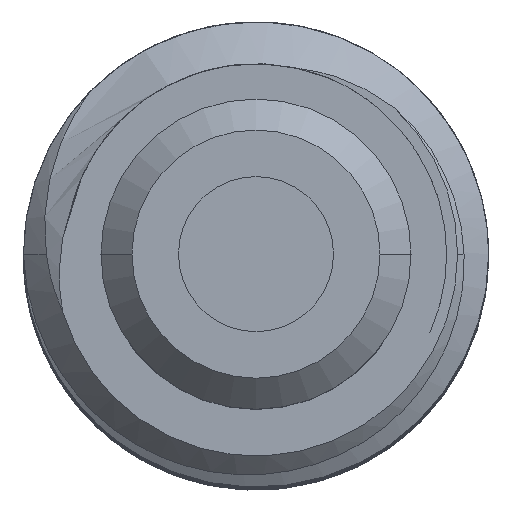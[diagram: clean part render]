
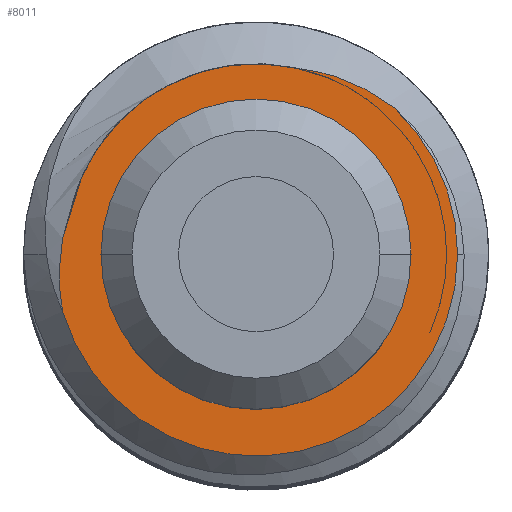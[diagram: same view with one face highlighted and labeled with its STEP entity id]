
A CAD part, top view. The second image highlights one B-rep face of the part: STEP entity #8011.
In plain terms, the highlighted planar face has unit normal (0, 0, 1).
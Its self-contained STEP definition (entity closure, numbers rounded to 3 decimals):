
#42 = AXIS2_PLACEMENT_3D ( 'NONE', #1364, #5193, #6278 ) ;
#52 = CARTESIAN_POINT ( 'NONE',  ( 0.893, 0.945, 12. ) ) ;
#175 = CARTESIAN_POINT ( 'NONE',  ( 0., 0., 12. ) ) ;
#211 = CARTESIAN_POINT ( 'NONE',  ( 0.277, 1.198, 12. ) ) ;
#225 = B_SPLINE_CURVE_WITH_KNOTS ( 'NONE', 3,
 ( #6178, #6135, #4214, #5426 ),
 .UNSPECIFIED., .F., .F.,
 ( 4, 4 ),
 ( 0., 0.001 ),
 .UNSPECIFIED. ) ;
#255 = B_SPLINE_CURVE_WITH_KNOTS ( 'NONE', 3,
 ( #52, #2684, #6473, #759, #2643, #211 ),
 .UNSPECIFIED., .F., .F.,
 ( 4, 2, 4 ),
 ( 0.001, 0.001, 0.001 ),
 .UNSPECIFIED. ) ;
#258 = CARTESIAN_POINT ( 'NONE',  ( 1.3, 0., 12. ) ) ;
#292 = CIRCLE ( 'NONE', #7228, 1.3 ) ;
#389 = CARTESIAN_POINT ( 'NONE',  ( -0.897, 0.856, 12. ) ) ;
#544 = EDGE_CURVE ( 'NONE', #5954, #7955, #255, .T. ) ;
#632 = CARTESIAN_POINT ( 'NONE',  ( -1., 0., 12. ) ) ;
#759 = CARTESIAN_POINT ( 'NONE',  ( 0.498, 1.157, 12. ) ) ;
#976 = CIRCLE ( 'NONE', #6569, 1.3 ) ;
#1364 = CARTESIAN_POINT ( 'NONE',  ( 0., 0., 12. ) ) ;
#1487 = CARTESIAN_POINT ( 'NONE',  ( 0.893, 0.945, 12. ) ) ;
#1508 = DIRECTION ( 'NONE',  ( 0., 0., 1. ) ) ;
#1722 = CARTESIAN_POINT ( 'NONE',  ( 0., 0., 12. ) ) ;
#1803 = CARTESIAN_POINT ( 'NONE',  ( 0.277, 1.198, 12. ) ) ;
#1992 = ORIENTED_EDGE ( 'NONE', *, *, #5707, .T. ) ;
#2025 = B_SPLINE_CURVE_WITH_KNOTS ( 'NONE', 3,
 ( #2444, #2362, #6864, #3569, #3654, #3608, #389, #5482, #8081, #8039 ),
 .UNSPECIFIED., .F., .F.,
 ( 4, 2, 2, 2, 4 ),
 ( 0., 0., 0.001, 0.001, 0.002 ),
 .UNSPECIFIED. ) ;
#2097 = EDGE_CURVE ( 'NONE', #2236, #7072, #2752, .T. ) ;
#2171 = CIRCLE ( 'NONE', #42, 1. ) ;
#2236 = VERTEX_POINT ( 'NONE', #6879 ) ;
#2344 = AXIS2_PLACEMENT_3D ( 'NONE', #5100, #7658, #3228 ) ;
#2345 = VERTEX_POINT ( 'NONE', #3124 ) ;
#2362 = CARTESIAN_POINT ( 'NONE',  ( 0.12, 1.234, 12. ) ) ;
#2444 = CARTESIAN_POINT ( 'NONE',  ( 0.277, 1.198, 12. ) ) ;
#2513 = DIRECTION ( 'NONE',  ( 0., 0., 1. ) ) ;
#2643 = CARTESIAN_POINT ( 'NONE',  ( 0.39, 1.185, 12. ) ) ;
#2684 = CARTESIAN_POINT ( 'NONE',  ( 0.804, 1.012, 12. ) ) ;
#2752 = CIRCLE ( 'NONE', #2344, 1. ) ;
#3039 = ORIENTED_EDGE ( 'NONE', *, *, #4322, .T. ) ;
#3124 = CARTESIAN_POINT ( 'NONE',  ( -1.247, -0.366, 12. ) ) ;
#3165 = ORIENTED_EDGE ( 'NONE', *, *, #4431, .T. ) ;
#3194 = VERTEX_POINT ( 'NONE', #258 ) ;
#3228 = DIRECTION ( 'NONE',  ( 1., 0., 0. ) ) ;
#3378 = AXIS2_PLACEMENT_3D ( 'NONE', #4664, #1508, #7811 ) ;
#3569 = CARTESIAN_POINT ( 'NONE',  ( -0.355, 1.188, 12. ) ) ;
#3608 = CARTESIAN_POINT ( 'NONE',  ( -0.777, 0.965, 12. ) ) ;
#3654 = CARTESIAN_POINT ( 'NONE',  ( -0.507, 1.131, 12. ) ) ;
#3908 = EDGE_LOOP ( 'NONE', ( #6378, #5251 ) ) ;
#4151 = VERTEX_POINT ( 'NONE', #5893 ) ;
#4214 = CARTESIAN_POINT ( 'NONE',  ( -1.287, -0.145, 12. ) ) ;
#4322 = EDGE_CURVE ( 'NONE', #2345, #3194, #292, .T. ) ;
#4410 = EDGE_LOOP ( 'NONE', ( #3039, #6782, #7863, #1992, #3165 ) ) ;
#4431 = EDGE_CURVE ( 'NONE', #4151, #2345, #225, .T. ) ;
#4664 = CARTESIAN_POINT ( 'NONE',  ( 0., 0., 12. ) ) ;
#5100 = CARTESIAN_POINT ( 'NONE',  ( 0., 0., 12. ) ) ;
#5193 = DIRECTION ( 'NONE',  ( 0., 0., 1. ) ) ;
#5251 = ORIENTED_EDGE ( 'NONE', *, *, #2097, .F. ) ;
#5256 = FACE_BOUND ( 'NONE', #3908, .T. ) ;
#5426 = CARTESIAN_POINT ( 'NONE',  ( -1.247, -0.366, 12. ) ) ;
#5482 = CARTESIAN_POINT ( 'NONE',  ( -1.085, 0.599, 12. ) ) ;
#5707 = EDGE_CURVE ( 'NONE', #7955, #4151, #2025, .T. ) ;
#5820 = EDGE_CURVE ( 'NONE', #7072, #2236, #2171, .T. ) ;
#5893 = CARTESIAN_POINT ( 'NONE',  ( -1.193, 0.298, 12. ) ) ;
#5954 = VERTEX_POINT ( 'NONE', #1487 ) ;
#5963 = PLANE ( 'NONE',  #3378 ) ;
#6135 = CARTESIAN_POINT ( 'NONE',  ( -1.272, 0.086, 12. ) ) ;
#6178 = CARTESIAN_POINT ( 'NONE',  ( -1.193, 0.298, 12. ) ) ;
#6278 = DIRECTION ( 'NONE',  ( 1., 0., 0. ) ) ;
#6306 = DIRECTION ( 'NONE',  ( 1., 0., 0. ) ) ;
#6378 = ORIENTED_EDGE ( 'NONE', *, *, #5820, .F. ) ;
#6473 = CARTESIAN_POINT ( 'NONE',  ( 0.705, 1.07, 12. ) ) ;
#6569 = AXIS2_PLACEMENT_3D ( 'NONE', #1722, #2513, #6306 ) ;
#6588 = FACE_OUTER_BOUND ( 'NONE', #4410, .T. ) ;
#6676 = DIRECTION ( 'NONE',  ( 1., 0., 0. ) ) ;
#6777 = EDGE_CURVE ( 'NONE', #3194, #5954, #976, .T. ) ;
#6782 = ORIENTED_EDGE ( 'NONE', *, *, #6777, .T. ) ;
#6864 = CARTESIAN_POINT ( 'NONE',  ( -0.042, 1.239, 12. ) ) ;
#6879 = CARTESIAN_POINT ( 'NONE',  ( 1., 0., 12. ) ) ;
#7072 = VERTEX_POINT ( 'NONE', #632 ) ;
#7228 = AXIS2_PLACEMENT_3D ( 'NONE', #175, #7782, #6676 ) ;
#7658 = DIRECTION ( 'NONE',  ( 0., 0., 1. ) ) ;
#7782 = DIRECTION ( 'NONE',  ( 0., 0., 1. ) ) ;
#7811 = DIRECTION ( 'NONE',  ( 1., 0., 0. ) ) ;
#7863 = ORIENTED_EDGE ( 'NONE', *, *, #544, .T. ) ;
#7955 = VERTEX_POINT ( 'NONE', #1803 ) ;
#8011 = ADVANCED_FACE ( 'NONE', ( #5256, #6588 ), #5963, .T. ) ;
#8039 = CARTESIAN_POINT ( 'NONE',  ( -1.193, 0.298, 12. ) ) ;
#8081 = CARTESIAN_POINT ( 'NONE',  ( -1.154, 0.454, 12. ) ) ;
